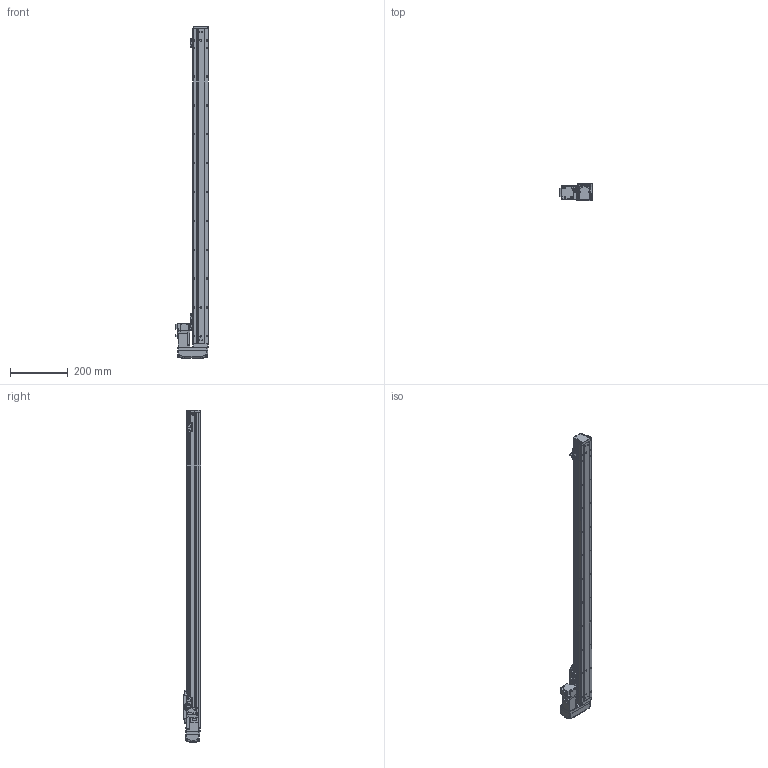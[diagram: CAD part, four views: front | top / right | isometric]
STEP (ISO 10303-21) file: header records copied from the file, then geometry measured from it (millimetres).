
FILE_DESCRIPTION (( 'STEP AP203' ), '1' );
FILE_NAME ('GTH5-950-BL-M10-C4.step', '2023-08-28T00:47:51', ( '微软用户' ), ( '微软中国' ), 'SwSTEP 2.0', 'SolidWorks 2020', '' );
FILE_SCHEMA (( 'CONFIG_CONTROL_DESIGN' ));
Length unit declared in the file: millimetre
Products named in the file (19): GTH50-022-1; GTH50-003; GTH50-023; GTH50-006; HG-KR13; GTH50-013; GBT 70.1-M3℅6; GTH50-004; GTH50-027-1_BTHA50-027-2; GBT96.1-2002 3×0.8; GBT 70.3-M3℅6; GTH50-026; GTH50-024; BTH-M3X5X6; GTH5-950-BL-M10-C4; GBT 70.1-M2.5×6; GTH50-001_950; GTH50-028; GBT 70.1-M4×16
Assembly tree (57 placements, depth 2):
  GTH5-950-BL-M10-C4
    GTH50-006
    GTH50-004
    GBT 70.3-M3℅6  x4
    BTH-M3X5X6  x8
    GTH50-001_950
    GBT 70.1-M4×16  x8
    GTH50-003
    GTH50-013
    GTH50-023  x3
    GBT 70.1-M3℅6  x12
    GBT96.1-2002 3×0.8  x6
    GTH50-024  x3
    GBT 70.1-M2.5×6  x2
    GTH50-028  x2
    GTH50-022-1
    HG-KR13
    GTH50-027-1_BTHA50-027-2
    GTH50-026
Bounding box: 113.8 x 60 x 1150 mm (x, y, z)
Volume: 2532277.4 mm3; surface area: 389909.3 mm2
Topology: 59 solids, 59 shells, 2176 faces, 5064 edges, 3108 vertices
Faces by surface type: plane 1142, cylinder 605, cone 219, torus 162, bspline 40, sphere 8
Entity records: 40752 total; most frequent: CARTESIAN_POINT 8043, DIRECTION 6297, ORIENTED_EDGE 6042, EDGE_CURVE 3021, AXIS2_PLACEMENT_3D 2200, VERTEX_POINT 1910, LINE 1897, VECTOR 1897
